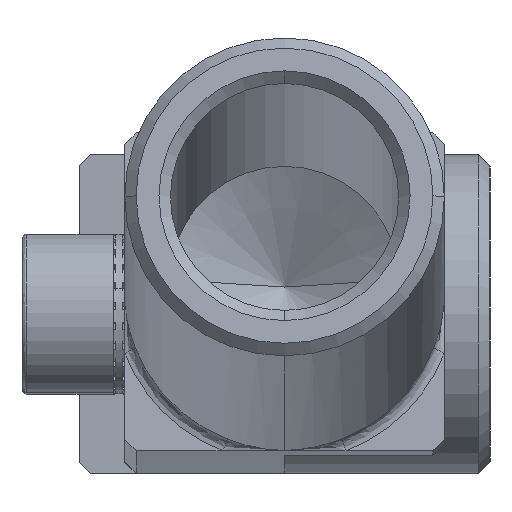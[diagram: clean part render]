
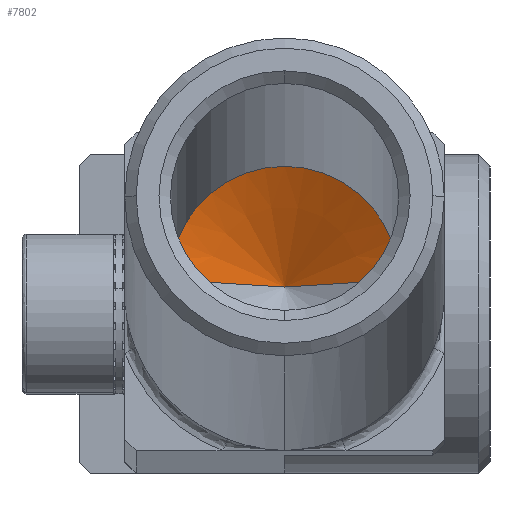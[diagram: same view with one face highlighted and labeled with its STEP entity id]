
A CAD part, left-side view. The second image highlights one B-rep face of the part: STEP entity #7802.
In plain terms, the highlighted conical face has half-angle 59 degrees and reference radius 1664.28 mm.
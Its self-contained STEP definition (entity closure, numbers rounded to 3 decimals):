
#2105 = DIRECTION ( 'NONE',  ( -0.512, 0.857, 0.054 ) ) ;
#2765 = ORIENTED_EDGE ( 'NONE', *, *, #16930, .F. ) ;
#2895 = AXIS2_PLACEMENT_3D ( 'NONE', #3985, #18015, #6003 ) ;
#3695 = LINE ( 'NONE', #10282, #9004 ) ;
#3964 = VERTEX_POINT ( 'NONE', #9979 ) ;
#3985 = CARTESIAN_POINT ( 'NONE',  ( -45.526, 39.243, 1.505 ) ) ;
#4309 = AXIS2_PLACEMENT_3D ( 'NONE', #6914, #20864, #14957 ) ;
#6003 = DIRECTION ( 'NONE',  ( 0.105, 0., 0.994 ) ) ;
#6259 = FACE_OUTER_BOUND ( 'NONE', #8655, .T. ) ;
#6914 = CARTESIAN_POINT ( 'NONE',  ( -1036.983, 39.243, 106.456 ) ) ;
#7802 = ADVANCED_FACE ( 'NONE', ( #6259 ), #9051, .F. ) ;
#8205 = EDGE_CURVE ( 'NONE', #14391, #3964, #3695, .T. ) ;
#8655 = EDGE_LOOP ( 'NONE', ( #2765, #16476, #16641 ) ) ;
#9004 = VECTOR ( 'NONE', #22316, 1000. ) ;
#9051 = CONICAL_SURFACE ( 'NONE', #4309, 1664.279, 1.03 ) ;
#9979 = CARTESIAN_POINT ( 'NONE',  ( -45.526, 34.243, 1.505 ) ) ;
#10180 = VERTEX_POINT ( 'NONE', #25120 ) ;
#10282 = CARTESIAN_POINT ( 'NONE',  ( -42.539, 39.243, 1.189 ) ) ;
#14391 = VERTEX_POINT ( 'NONE', #17537 ) ;
#14957 = DIRECTION ( 'NONE',  ( 0., 1., 0. ) ) ;
#16476 = ORIENTED_EDGE ( 'NONE', *, *, #8205, .T. ) ;
#16641 = ORIENTED_EDGE ( 'NONE', *, *, #21835, .F. ) ;
#16930 = EDGE_CURVE ( 'NONE', #14391, #10180, #17444, .T. ) ;
#17444 = LINE ( 'NONE', #22095, #22158 ) ;
#17537 = CARTESIAN_POINT ( 'NONE',  ( -42.539, 39.243, 1.189 ) ) ;
#18015 = DIRECTION ( 'NONE',  ( 0.994, 0., -0.105 ) ) ;
#20864 = DIRECTION ( 'NONE',  ( -0.994, 0., 0.105 ) ) ;
#21835 = EDGE_CURVE ( 'NONE', #10180, #3964, #24137, .T. ) ;
#22095 = CARTESIAN_POINT ( 'NONE',  ( -42.539, 39.243, 1.189 ) ) ;
#22158 = VECTOR ( 'NONE', #2105, 1000. ) ;
#22316 = DIRECTION ( 'NONE',  ( -0.512, -0.857, 0.054 ) ) ;
#24137 = CIRCLE ( 'NONE', #2895, 5. ) ;
#25120 = CARTESIAN_POINT ( 'NONE',  ( -45.526, 44.243, 1.505 ) ) ;
